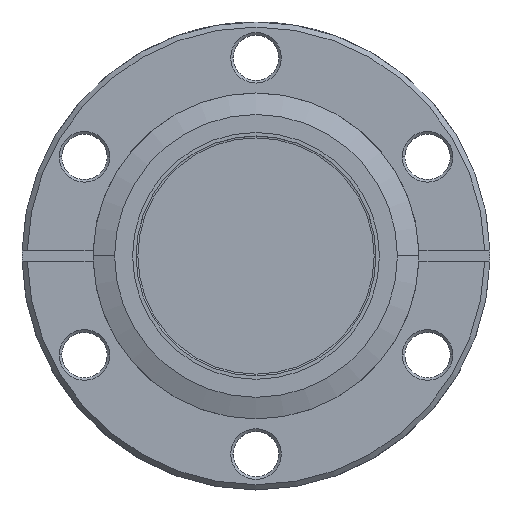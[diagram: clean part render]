
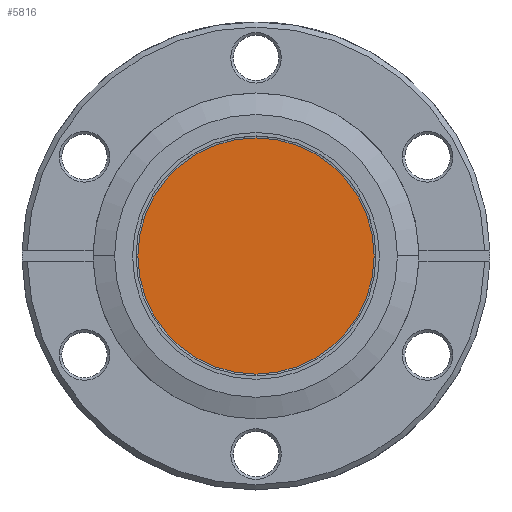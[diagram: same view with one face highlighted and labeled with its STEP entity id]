
A CAD part, top view. The second image highlights one B-rep face of the part: STEP entity #5816.
In plain terms, the highlighted planar face has unit normal (0, 0, 1).
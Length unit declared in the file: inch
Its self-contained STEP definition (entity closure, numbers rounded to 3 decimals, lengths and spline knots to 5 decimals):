
#1243=PLANE('',#35088);
#1424=VERTEX_POINT('',#7153);
#2037=CIRCLE('',#35087,0.68915);
#2208=EDGE_CURVE('',#1424,#1424,#2037,.T.);
#3141=ORIENTED_EDGE('',*,*,#2208,.T.);
#4995=EDGE_LOOP('',(#3141));
#5409=FACE_BOUND('',#4995,.T.);
#5816=ADVANCED_FACE('',(#5409),#1243,.T.);
#6217=DIRECTION('',(0.,0.,1.));
#6218=DIRECTION('',(0.,0.689,0.));
#6219=DIRECTION('',(0.,0.,1.));
#7152=CARTESIAN_POINT('',(0.,0.,0.17));
#7153=CARTESIAN_POINT('',(0.,0.68915,0.17));
#7154=CARTESIAN_POINT('',(0.,0.34457,0.17));
#35087=AXIS2_PLACEMENT_3D('',#7152,#6217,#6218);
#35088=AXIS2_PLACEMENT_3D('',#7154,#6219,$);
